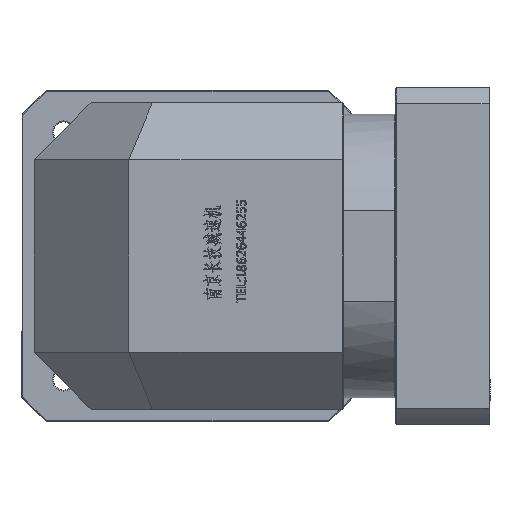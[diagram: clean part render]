
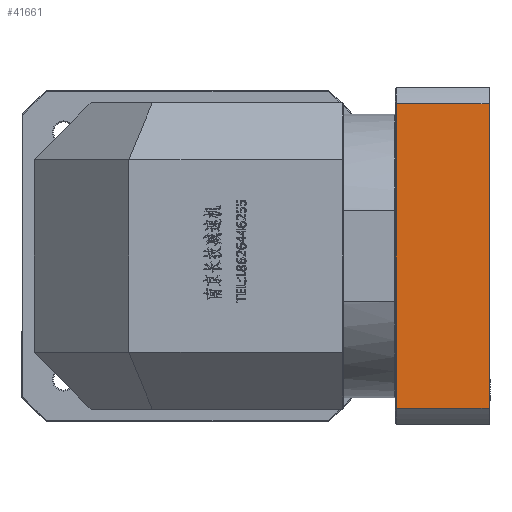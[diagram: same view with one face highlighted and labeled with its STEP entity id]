
A CAD part, left-side view. The second image highlights one B-rep face of the part: STEP entity #41661.
In plain terms, the highlighted planar face has unit normal (-1, 0, 0).
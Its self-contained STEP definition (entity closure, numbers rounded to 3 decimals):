
#1451 = CARTESIAN_POINT ( 'NONE',  ( -150.015, -186.153, 348.459 ) ) ;
#3458 = EDGE_CURVE ( 'NONE', #20270, #62790, #12025, .T. ) ;
#3812 = DIRECTION ( 'NONE',  ( 0., 0., -1. ) ) ;
#8338 = LINE ( 'NONE', #62822, #74632 ) ;
#9494 = EDGE_CURVE ( 'NONE', #62790, #88646, #64999, .T. ) ;
#12025 = LINE ( 'NONE', #109074, #89372 ) ;
#20099 = ORIENTED_EDGE ( 'NONE', *, *, #9494, .F. ) ;
#20270 = VERTEX_POINT ( 'NONE', #1451 ) ;
#36061 = EDGE_LOOP ( 'NONE', ( #93077, #89044, #98568, #20099 ) ) ;
#40815 = CARTESIAN_POINT ( 'NONE',  ( -150.015, -235.153, 348.459 ) ) ;
#41661 = ADVANCED_FACE ( 'NONE', ( #106064 ), #135865, .F. ) ;
#56794 = AXIS2_PLACEMENT_3D ( 'NONE', #77149, #100255, #76150 ) ;
#62790 = VERTEX_POINT ( 'NONE', #40815 ) ;
#62822 = CARTESIAN_POINT ( 'NONE',  ( -150.015, 157.152, 187.475 ) ) ;
#63859 = DIRECTION ( 'NONE',  ( 0., 1., 0. ) ) ;
#64999 = LINE ( 'NONE', #85673, #105352 ) ;
#67088 = VECTOR ( 'NONE', #109103, 1000. ) ;
#73626 = DIRECTION ( 'NONE',  ( 0., -1., 0. ) ) ;
#74632 = VECTOR ( 'NONE', #63859, 1000. ) ;
#76150 = DIRECTION ( 'NONE',  ( 0., 1., 0. ) ) ;
#77149 = CARTESIAN_POINT ( 'NONE',  ( -150.015, -235.653, 178.967 ) ) ;
#85673 = CARTESIAN_POINT ( 'NONE',  ( -150.015, -235.153, 186.967 ) ) ;
#88646 = VERTEX_POINT ( 'NONE', #128944 ) ;
#89044 = ORIENTED_EDGE ( 'NONE', *, *, #97107, .F. ) ;
#89372 = VECTOR ( 'NONE', #73626, 1000. ) ;
#93077 = ORIENTED_EDGE ( 'NONE', *, *, #3458, .F. ) ;
#95253 = EDGE_CURVE ( 'NONE', #88646, #104183, #8338, .T. ) ;
#97107 = EDGE_CURVE ( 'NONE', #104183, #20270, #142539, .T. ) ;
#98568 = ORIENTED_EDGE ( 'NONE', *, *, #95253, .F. ) ;
#100255 = DIRECTION ( 'NONE',  ( 1., 0., 0. ) ) ;
#104183 = VERTEX_POINT ( 'NONE', #106612 ) ;
#105352 = VECTOR ( 'NONE', #3812, 1000. ) ;
#106064 = FACE_OUTER_BOUND ( 'NONE', #36061, .T. ) ;
#106612 = CARTESIAN_POINT ( 'NONE',  ( -150.015, -186.153, 187.475 ) ) ;
#109074 = CARTESIAN_POINT ( 'NONE',  ( -150.015, 157.152, 348.459 ) ) ;
#109103 = DIRECTION ( 'NONE',  ( 0., 0., 1. ) ) ;
#120481 = CARTESIAN_POINT ( 'NONE',  ( -150.015, -186.153, 178.967 ) ) ;
#128944 = CARTESIAN_POINT ( 'NONE',  ( -150.015, -235.153, 187.475 ) ) ;
#135865 = PLANE ( 'NONE',  #56794 ) ;
#142539 = LINE ( 'NONE', #120481, #67088 ) ;
